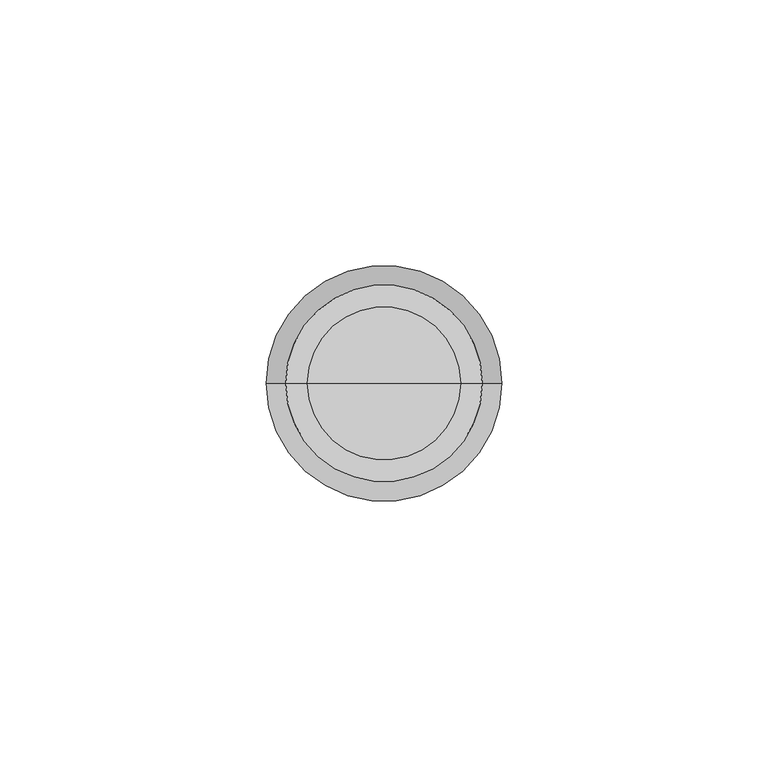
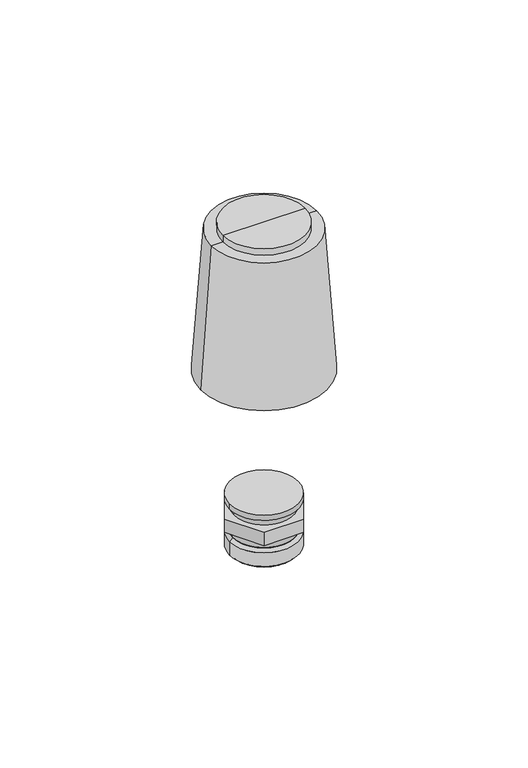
"""IFC4 building model written with IfcOpenShell, lengths in millimetres: valve geometry, Superpipe Actuator : Superpipe Actuator."""

from ifc_helpers import new_model, si_unit, point, frame, origin, origin_with_axes, origin_2d, place, context, project, spatial, polyline, circle_curve, trimmed, segment, composite_curve, outline, extrude, source, transform, mapped, element, save
from ifc_brep_helpers import plane_surface, cylinder_surface, revolved_surface, advanced_brep


def valve_0291d072(model_context):
    return source(origin(), model_context, "Body", "SolidModel", [
        extrude(outline(composite_curve([segment(trimmed(circle_curve(origin_2d(), 12.5), [point((-12.5, 0.0))], [point((12.5, 0.0))], False, "CARTESIAN"), True, "CONTINUOUS"), segment(trimmed(circle_curve(origin_2d(), 12.5), [point((12.5, 0.0))], [point((-12.5, 0.0))], False, "CARTESIAN"), True, "CONTINUOUS")], self_intersect=False)), origin_with_axes(), (0.0, 0.0, 1.0), 4.8),
        advanced_brep(
        [(14.3845114, 0.0, 59.3918205), (-14.3845114, 0.0, 59.3918205), (0.0, 0.0, 59.3918205), (14.3845114, 0.0, 57.0), (-14.3845114, 0.0, 57.0), (18.4998204, 0.0, 57.0), (-18.4998204, 0.0, 57.0), (22.15, 0.0, 4.8), (-22.15, 0.0, 4.8), (0.0, 0.0, 4.8)],
        [
            (0, 1, circle_curve(frame((0.0, 0.0, 59.3918205), z_axis=(0.0, 0.0, 1.0), x_axis=(-1.0, 0.0, 0.0)), 14.3845114)),
            (1, 2),
            (2, 0),
            (1, 0, circle_curve(frame((0.0, 0.0, 59.3918205), z_axis=(0.0, 0.0, 1.0), x_axis=(-1.0, 0.0, 0.0)), 14.3845114)),
            (3, 4, circle_curve(frame((0.0, 0.0, 57.0), z_axis=(0.0, 0.0, 1.0), x_axis=(-1.0, 0.0, 0.0)), 14.3845114)),
            (4, 1),
            (0, 3),
            (4, 3, circle_curve(frame((0.0, 0.0, 57.0), z_axis=(0.0, 0.0, 1.0), x_axis=(-1.0, 0.0, 0.0)), 14.3845114)),
            (5, 6, circle_curve(frame((0.0, 0.0, 57.0), z_axis=(0.0, 0.0, 1.0), x_axis=(-1.0, 0.0, 0.0)), 18.4998204)),
            (6, 4),
            (3, 5),
            (6, 5, circle_curve(frame((0.0, 0.0, 57.0), z_axis=(0.0, 0.0, 1.0), x_axis=(-1.0, 0.0, 0.0)), 18.4998204)),
            (7, 8, circle_curve(frame((0.0, 0.0, 4.8), z_axis=(0.0, 0.0, 1.0), x_axis=(-1.0, 0.0, 0.0)), 22.15)),
            (8, 6),
            (5, 7),
            (8, 7, circle_curve(frame((0.0, 0.0, 4.8), z_axis=(0.0, 0.0, 1.0), x_axis=(-1.0, 0.0, 0.0)), 22.15)),
            (9, 8),
            (7, 9),
        ],
        [
            plane_surface(frame((0.0, 0.0, 59.3918205), z_axis=(0.0, 0.0, 1.0), x_axis=(-1.0, 0.0, 0.0))),
            cylinder_surface(frame((0.0, 0.0, 88.1521916), z_axis=(0.0, 0.0, -1.0), x_axis=(-1.0, 0.0, 0.0)), 14.3845114),
            plane_surface(frame((0.0, 0.0, 57.0), z_axis=(0.0, 0.0, 1.0), x_axis=(-1.0, 0.0, 0.0))),
            revolved_surface(polyline([(-18.4998204, 0.0, 57.0), (-22.15, 0.0, 4.8)]), (0.0, 0.0, 88.1521916), (0.0, 0.0, -1.0)),
            plane_surface(frame((0.0, 0.0, 4.8), z_axis=(0.0, 0.0, -1.0), x_axis=(-1.0, 0.0, 0.0))),
        ],
        [
            (0, [[1, 2, 3]]),
            (0, [[4, -3, -2]]),
            (1, [[5, 6, -1, 7]]),
            (1, [[8, -7, -4, -6]]),
            (2, [[9, 10, -5, 11]]),
            (2, [[12, -11, -8, -10]]),
            (3, [[13, 14, -9, 15]]),
            (3, [[16, -15, -12, -14]]),
            (4, [[17, -13, 18]]),
            (4, [[-18, -16, -17]]),
        ],
    ),
        advanced_brep(
        [(12.0, 0.0, -55.0), (-12.0, 0.0, -55.0), (-11.0, 0.0, -54.0), (11.0, 0.0, -54.0), (12.0, 0.0, -60.0), (-12.0, 0.0, -60.0), (11.0, 0.0, -61.0), (-11.0, 0.0, -61.0), (0.0, 0.0, -61.0), (0.0, 0.0, -54.0)],
        [
            (0, 1, circle_curve(frame((0.0, 0.0, -55.0), z_axis=(0.0, 0.0, 1.0), x_axis=(-1.0, 0.0, 0.0)), 12.0)),
            (1, 2),
            (2, 3, circle_curve(frame((0.0, 0.0, -54.0), z_axis=(0.0, 0.0, -1.0), x_axis=(-1.0, 0.0, 0.0)), 11.0)),
            (3, 0),
            (1, 0, circle_curve(frame((0.0, 0.0, -55.0), z_axis=(0.0, 0.0, 1.0), x_axis=(-1.0, 0.0, 0.0)), 12.0)),
            (3, 2, circle_curve(frame((0.0, 0.0, -54.0), z_axis=(0.0, 0.0, -1.0), x_axis=(-1.0, 0.0, 0.0)), 11.0)),
            (4, 5, circle_curve(frame((0.0, 0.0, -60.0), z_axis=(0.0, 0.0, 1.0), x_axis=(-1.0, 0.0, 0.0)), 12.0)),
            (5, 1),
            (0, 4),
            (5, 4, circle_curve(frame((0.0, 0.0, -60.0), z_axis=(0.0, 0.0, 1.0), x_axis=(-1.0, 0.0, 0.0)), 12.0)),
            (6, 7, circle_curve(frame((0.0, 0.0, -61.0), z_axis=(0.0, 0.0, 1.0), x_axis=(-1.0, 0.0, 0.0)), 11.0)),
            (7, 5),
            (4, 6),
            (7, 6, circle_curve(frame((0.0, 0.0, -61.0), z_axis=(0.0, 0.0, 1.0), x_axis=(-1.0, 0.0, 0.0)), 11.0)),
            (8, 7),
            (6, 8),
            (2, 9),
            (9, 3),
        ],
        [
            revolved_surface(polyline([(-11.0, 0.0, -54.0), (-12.0, 0.0, -55.0)]), (0.0, 0.0, -52.2471178), (0.0, 0.0, -1.0)),
            cylinder_surface(frame((0.0, 0.0, -52.2471178), z_axis=(0.0, 0.0, -1.0), x_axis=(-1.0, 0.0, 0.0)), 12.0),
            revolved_surface(polyline([(-12.0, 0.0, -60.0), (-11.0, 0.0, -61.0)]), (0.0, 0.0, -52.2471178), (0.0, 0.0, -1.0)),
            plane_surface(frame((0.0, 0.0, -61.0), z_axis=(0.0, 0.0, -1.0), x_axis=(-1.0, 0.0, 0.0))),
            plane_surface(frame((0.0, 0.0, -54.0), z_axis=(0.0, 0.0, 1.0), x_axis=(-1.0, 0.0, 0.0))),
        ],
        [
            (0, [[1, 2, 3, 4]]),
            (0, [[5, -4, 6, -2]]),
            (1, [[7, 8, -1, 9]]),
            (1, [[10, -9, -5, -8]]),
            (2, [[11, 12, -7, 13]]),
            (2, [[14, -13, -10, -12]]),
            (3, [[15, -11, 16]]),
            (3, [[-16, -14, -15]]),
            (4, [[-3, 17, 18]]),
            (4, [[-6, -18, -17]]),
        ],
    ),
        extrude(outline(composite_curve([segment(trimmed(circle_curve(origin_2d(), 11.0), [point((-11.0, 0.0))], [point((11.0, 0.0))], False, "CARTESIAN"), True, "CONTINUOUS"), segment(trimmed(circle_curve(origin_2d(), 11.0), [point((11.0, 0.0))], [point((-11.0, 0.0))], False, "CARTESIAN"), True, "CONTINUOUS")], self_intersect=False)), frame((0.0, 0.0, -54.0), z_axis=(0.0, 0.0, 1.0), x_axis=(1.0, 0.0, 0.0)), (0.0, 0.0, 1.0), 3.0),
        extrude(outline(polyline([(-13.8564065, 0.0), (-6.9282032, 12.0), (6.9282032, 12.0), (13.8564065, 0.0), (6.9282032, -12.0), (-6.9282032, -12.0), (-13.8564065, 0.0)])), frame((0.0, 0.0, -51.0), z_axis=(0.0, 0.0, 1.0), x_axis=(1.0, 0.0, 0.0)), (0.0, 0.0, 1.0), 5.0),
        extrude(outline(composite_curve([segment(trimmed(circle_curve(origin_2d(), 10.5), [point((-10.5, 0.0))], [point((10.5, 0.0))], False, "CARTESIAN"), True, "CONTINUOUS"), segment(trimmed(circle_curve(origin_2d(), 10.5), [point((10.5, 0.0))], [point((-10.5, 0.0))], False, "CARTESIAN"), True, "CONTINUOUS")], self_intersect=False)), frame((0.0, 0.0, -46.0), z_axis=(0.0, 0.0, 1.0), x_axis=(1.0, 0.0, 0.0)), (0.0, 0.0, 1.0), 3.0),
        extrude(outline(composite_curve([segment(trimmed(circle_curve(origin_2d(), 12.0), [point((-12.0, 0.0))], [point((12.0, 0.0))], False, "CARTESIAN"), True, "CONTINUOUS"), segment(trimmed(circle_curve(origin_2d(), 12.0), [point((12.0, 0.0))], [point((-12.0, 0.0))], False, "CARTESIAN"), True, "CONTINUOUS")], self_intersect=False)), frame((0.0, 0.0, -43.0), z_axis=(0.0, 0.0, 1.0), x_axis=(1.0, 0.0, 0.0)), (0.0, 0.0, 1.0), 2.0),
    ])


if __name__ == "__main__":
    model = new_model("IFC4")
    model_context = context("Model", 3, world=origin())
    ifc_project = project(units=[si_unit("LENGTHUNIT", "METRE", prefix="MILLI")], contexts=[model_context])
    site = spatial("IfcSite", under=ifc_project)
    building = spatial("IfcBuilding", under=site)
    placement = place(None, origin())
    valve_shape = valve_0291d072(model_context)
    element("IfcValve", 1, ObjectType="Superpipe Actuator : Superpipe Actuator", at=placement, inside=building, context=model_context, shape_type="MappedRepresentation", body=[
        mapped(valve_shape, transform((0.0, 0.0, 0.0), x_axis=(1.0, 0.0, 0.0), y_axis=(0.0, 1.0, 0.0), z_axis=(0.0, 0.0, 1.0))),
    ])
    save(model, "model.ifc")
